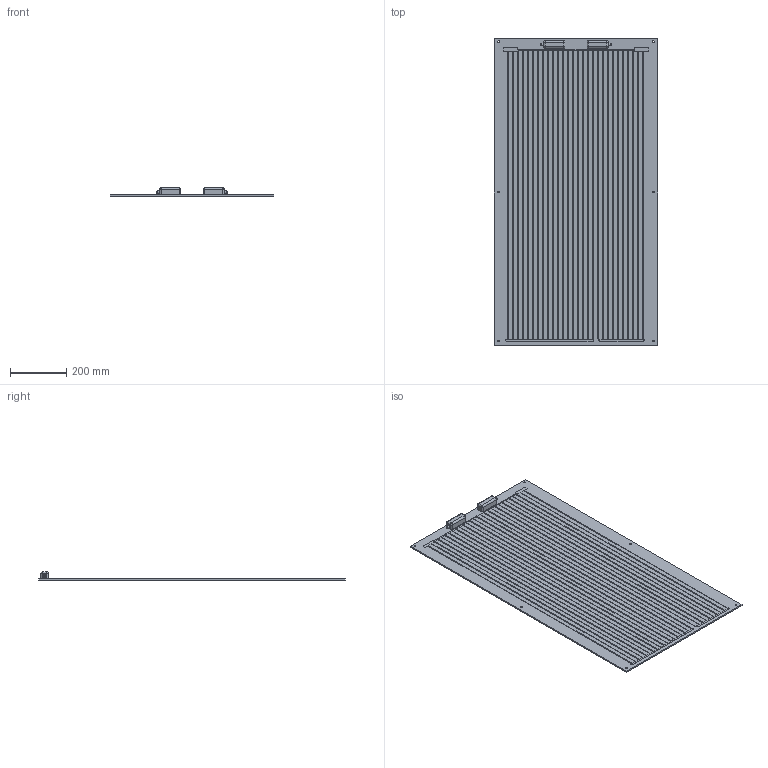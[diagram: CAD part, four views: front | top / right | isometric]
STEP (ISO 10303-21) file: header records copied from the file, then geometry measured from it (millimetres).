
FILE_DESCRIPTION(/* description */ ('STEP AP242','CAx-IF Rec.Pracs.---Representation and Presentation of Product Manufacturing Information (PMI)---4.0---2014-10-13','CAx-IF Rec.Pracs.---3D Tessellated Geometry---0.4---2014-09-14','2;1'),/* implementation_level */ '2;1');
FILE_NAME(/* name */ 'Solar Panel - 1 - Part 1',/* time_stamp */ '2025-02-01T14:44:34Z',/* author */ (''),/* organization */ (''),/* preprocessor_version */ 'ST-DEVELOPER v20',/* originating_system */ 'ONSHAPE BY PTC INC, 1.193',/* authorisation */ ' ');
FILE_SCHEMA (('AP242_MANAGED_MODEL_BASED_3D_ENGINEERING_MIM_LF { 1 0 10303 442 1 1 4 }'));
Length unit declared in the file: metre
Products named in the file (1): Part 1
Bounding box: 582 x 1093 x 30 mm (x, y, z)
Volume: 3257914.9 mm3; surface area: 1310369.1 mm2
Topology: 1 solids, 1 shells, 225 faces, 561 edges, 360 vertices
Faces by surface type: plane 173, cylinder 40, bspline 8, cone 2, torus 2
Full cylindrical faces by diameter (mm): 6 x6, 8.507 x2
Entity records: 6695 total; most frequent: CARTESIAN_POINT 1331, ORIENTED_EDGE 1078, DIRECTION 1059, EDGE_CURVE 539, LINE 455, VECTOR 455, VERTEX_POINT 358, AXIS2_PLACEMENT_3D 302
